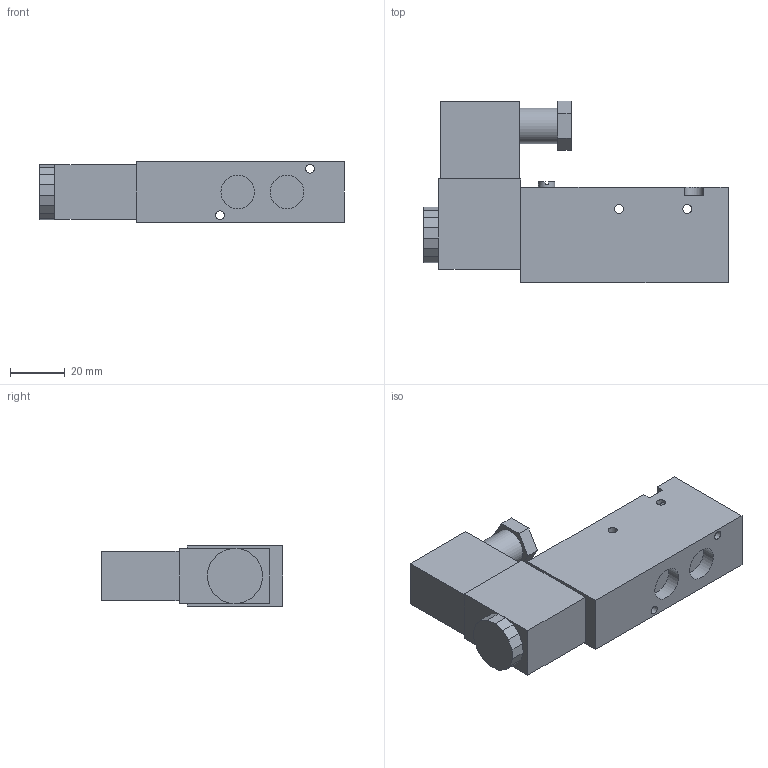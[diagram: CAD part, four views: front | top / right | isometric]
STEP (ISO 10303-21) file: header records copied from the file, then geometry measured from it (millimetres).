
FILE_DESCRIPTION(('STEP AP203'), '1');
FILE_NAME('3VM210-08-NC AC220V 砅槻斁譇厴謥麧錒蠈錪 DN.ru', '2026-04-20T17:09:11', ('R2D2'), (''), 'C3D Converter', 'C3D Toolkit', '');
FILE_SCHEMA(('CONFIG_CONTROL_DESIGN'));
Length unit declared in the file: millimetre
Products named in the file (1): 3VM210-08-NC AC220V
Bounding box: 111.5 x 66.5 x 22 mm (x, y, z)
Volume: 95017.2 mm3; surface area: 19230.7 mm2
Topology: 1 solids, 1 shells, 70 faces, 180 edges, 118 vertices
Faces by surface type: plane 59, cylinder 11
Full cylindrical faces by diameter (mm): 3.2 x2, 3.3 x2, 6 x1, 12.3 x3, 13 x1
Entity records: 2490 total; most frequent: CARTESIAN_POINT 518, ORIENTED_EDGE 340, DIRECTION 336, EDGE_CURVE 170, LINE 142, VECTOR 142, VERTEX_POINT 118, AXIS2_PLACEMENT_3D 97
